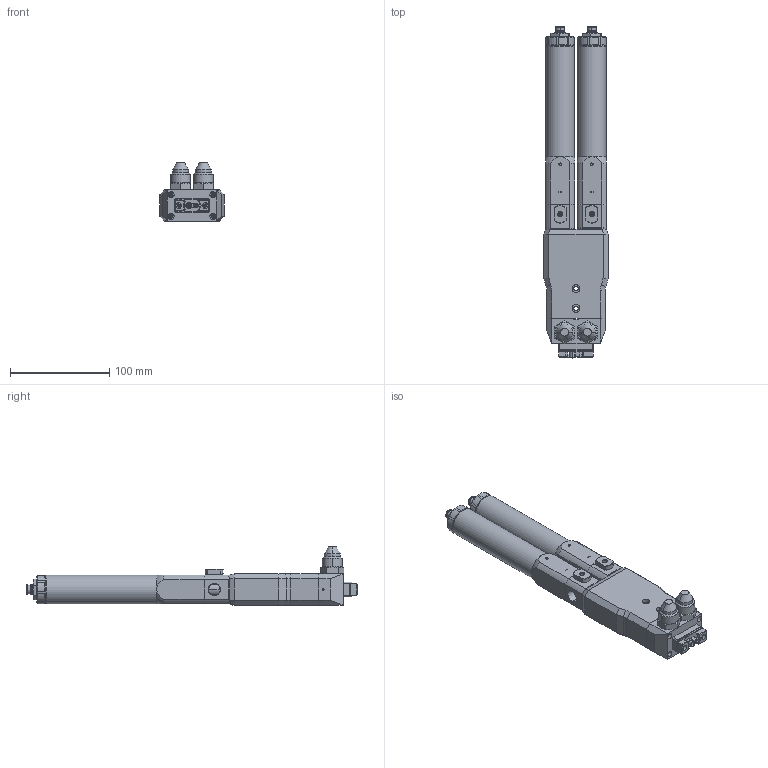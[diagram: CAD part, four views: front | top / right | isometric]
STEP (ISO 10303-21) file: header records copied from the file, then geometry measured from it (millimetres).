
FILE_DESCRIPTION (( 'STEP AP214' ), '1' );
FILE_NAME ('PDP-1000-500BB.STEP', '2024-10-11T12:21:06', ( '' ), ( '' ), 'SwSTEP 2.0', 'SolidWorks 2024', '' );
FILE_SCHEMA (( 'AUTOMOTIVE_DESIGN' ));
Length unit declared in the file: millimetre
Products named in the file (1): PDP-1000-500BB
Bounding box: 65 x 335 x 59.3 mm (x, y, z)
Volume: 504046.4 mm3; surface area: 118659.6 mm2
Topology: 13 solids, 13 shells, 1388 faces, 3463 edges, 2184 vertices
Faces by surface type: plane 523, cylinder 505, cone 303, bspline 37, torus 12, sphere 8
Full cylindrical faces by diameter (mm): 29 x2
Entity records: 71669 total; most frequent: CARTESIAN_POINT 39364, ORIENTED_EDGE 6856, DIRECTION 6517, EDGE_CURVE 3428, AXIS2_PLACEMENT_3D 2513, VERTEX_POINT 2183, EDGE_LOOP 1549, VECTOR 1491
